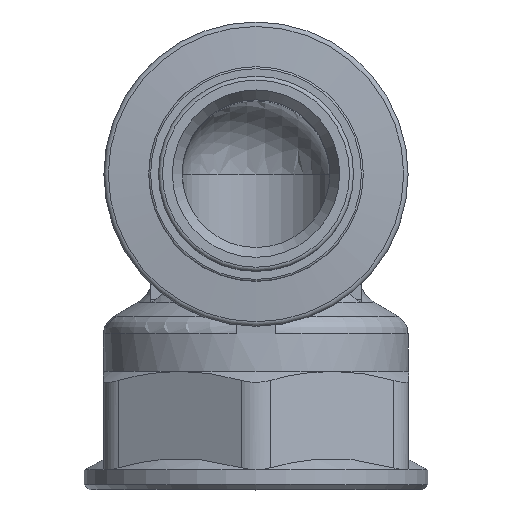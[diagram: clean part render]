
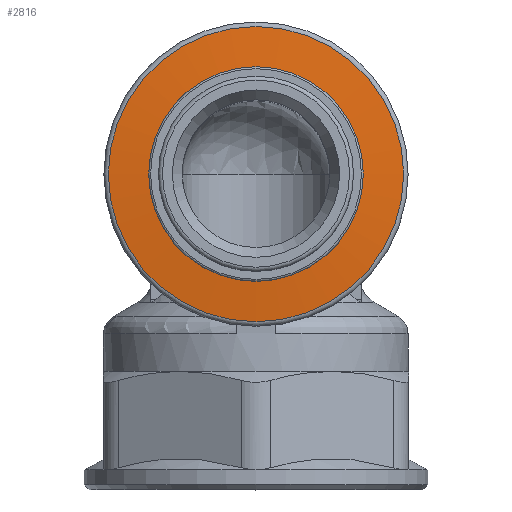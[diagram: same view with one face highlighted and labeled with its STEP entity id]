
A CAD part, top view. The second image highlights one B-rep face of the part: STEP entity #2816.
In plain terms, the highlighted conical face has half-angle 85 degrees and reference radius 12.653 mm.
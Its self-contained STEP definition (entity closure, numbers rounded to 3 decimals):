
#2816=ADVANCED_FACE('',(#5246,#5248),#5250,.T.);
#5246=FACE_OUTER_BOUND('',#5247,.T.);
#5247=EDGE_LOOP('',(#7737));
#5248=FACE_OUTER_BOUND('',#5249,.T.);
#5249=EDGE_LOOP('',(#7738));
#5250=CONICAL_SURFACE('',#5251,12.653,1.484);
#5251=AXIS2_PLACEMENT_3D('',#5252,#5253,#5254);
#5252=CARTESIAN_POINT('',(0.,0.,28.445));
#5253=DIRECTION('',(0.,0.,-1.));
#5254=DIRECTION('',(0.,-1.,0.));
#7737=ORIENTED_EDGE('',*,*,#8676,.T.);
#7738=ORIENTED_EDGE('',*,*,#8678,.T.);
#8676=EDGE_CURVE('',#10139,#10139,#10140,.T.);
#8678=EDGE_CURVE('',#10143,#10143,#10144,.F.);
#10139=VERTEX_POINT('',#15091);
#10140=CIRCLE('',#15092,14.994);
#10143=VERTEX_POINT('',#15101);
#10144=CIRCLE('',#15102,10.313);
#15091=CARTESIAN_POINT('',(0.,14.994,28.24));
#15092=AXIS2_PLACEMENT_3D('',#15093,#15094,#15095);
#15093=CARTESIAN_POINT('',(0.,0.,28.24));
#15094=DIRECTION('',(0.,0.,1.));
#15095=DIRECTION('',(0.,1.,0.));
#15101=CARTESIAN_POINT('',(0.,10.313,28.649));
#15102=AXIS2_PLACEMENT_3D('',#15103,#15104,#15105);
#15103=CARTESIAN_POINT('',(0.,0.,28.649));
#15104=DIRECTION('',(0.,0.,1.));
#15105=DIRECTION('',(0.,1.,0.));
